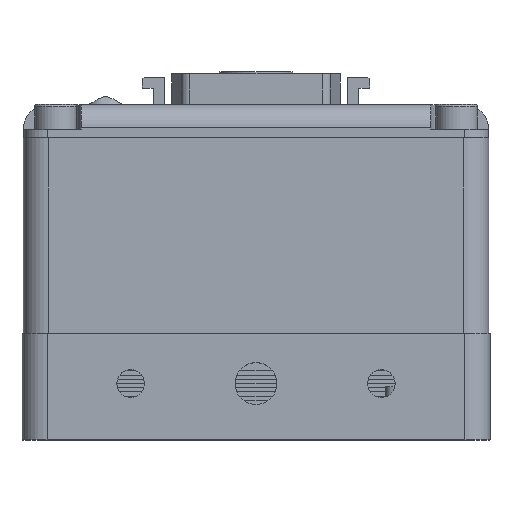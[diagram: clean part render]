
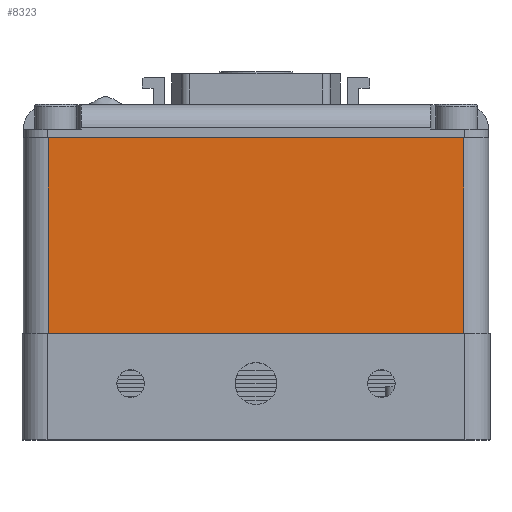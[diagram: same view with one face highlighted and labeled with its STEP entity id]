
A CAD part, top view. The second image highlights one B-rep face of the part: STEP entity #8323.
In plain terms, the highlighted planar face has unit normal (0, 0, 1).
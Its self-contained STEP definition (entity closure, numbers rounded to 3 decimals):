
#32 = VERTEX_POINT ( 'NONE', #6428 ) ;
#558 = LINE ( 'NONE', #1005, #561 ) ;
#561 = VECTOR ( 'NONE', #1006, 1000. ) ;
#577 = LINE ( 'NONE', #1065, #599 ) ;
#588 = LINE ( 'NONE', #1051, #591 ) ;
#591 = VECTOR ( 'NONE', #1052, 1000. ) ;
#599 = VECTOR ( 'NONE', #1070, 1000. ) ;
#1005 = CARTESIAN_POINT ( 'NONE',  ( -30.768, 1.315, 29.85 ) ) ;
#1006 = DIRECTION ( 'NONE',  ( -1., 0., 0. ) ) ;
#1051 = CARTESIAN_POINT ( 'NONE',  ( -27.768, 1.315, 29.85 ) ) ;
#1052 = DIRECTION ( 'NONE',  ( 0., -1., 0. ) ) ;
#1065 = CARTESIAN_POINT ( 'NONE',  ( 21.932, 1.315, 29.85 ) ) ;
#1070 = DIRECTION ( 'NONE',  ( 0., 1., 0. ) ) ;
#1215 = LINE ( 'NONE', #1499, #1218 ) ;
#1218 = VECTOR ( 'NONE', #1501, 1000. ) ;
#1499 = CARTESIAN_POINT ( 'NONE',  ( -30.768, 24.715, 29.85 ) ) ;
#1501 = DIRECTION ( 'NONE',  ( -1., 0., 0. ) ) ;
#3665 = CARTESIAN_POINT ( 'NONE',  ( -27.768, 1.315, 29.85 ) ) ;
#3687 = CARTESIAN_POINT ( 'NONE',  ( 21.932, 24.715, 29.85 ) ) ;
#4112 = FACE_OUTER_BOUND ( 'NONE', #6915, .T. ) ;
#4393 = CARTESIAN_POINT ( 'NONE',  ( -30.768, 1.315, 29.85 ) ) ;
#4398 = PLANE ( 'NONE',  #5993 ) ;
#4401 = DIRECTION ( 'NONE',  ( 0., 0., -1. ) ) ;
#4402 = DIRECTION ( 'NONE',  ( 0., 1., 0. ) ) ;
#4541 = CARTESIAN_POINT ( 'NONE',  ( -27.768, 24.715, 29.85 ) ) ;
#5395 = EDGE_CURVE ( 'NONE', #32, #8147, #558, .T. ) ;
#5414 = EDGE_CURVE ( 'NONE', #8617, #8147, #588, .T. ) ;
#5420 = EDGE_CURVE ( 'NONE', #32, #8169, #577, .T. ) ;
#5474 = EDGE_CURVE ( 'NONE', #8169, #8617, #1215, .T. ) ;
#5993 = AXIS2_PLACEMENT_3D ( 'NONE', #4393, #4401, #4402 ) ;
#6328 = ORIENTED_EDGE ( 'NONE', *, *, #5474, .T. ) ;
#6329 = ORIENTED_EDGE ( 'NONE', *, *, #5414, .T. ) ;
#6330 = ORIENTED_EDGE ( 'NONE', *, *, #5395, .F. ) ;
#6331 = ORIENTED_EDGE ( 'NONE', *, *, #5420, .T. ) ;
#6428 = CARTESIAN_POINT ( 'NONE',  ( 21.932, 1.315, 29.85 ) ) ;
#6915 = EDGE_LOOP ( 'NONE', ( #6328, #6329, #6330, #6331 ) ) ;
#8147 = VERTEX_POINT ( 'NONE', #3665 ) ;
#8169 = VERTEX_POINT ( 'NONE', #3687 ) ;
#8323 = ADVANCED_FACE ( 'NONE', ( #4112 ), #4398, .F. ) ;
#8617 = VERTEX_POINT ( 'NONE', #4541 ) ;
